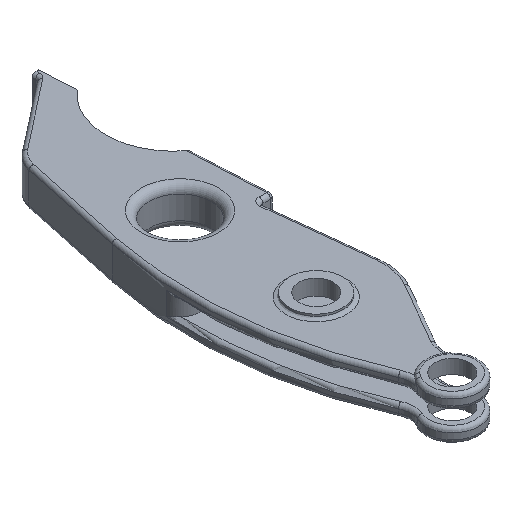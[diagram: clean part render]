
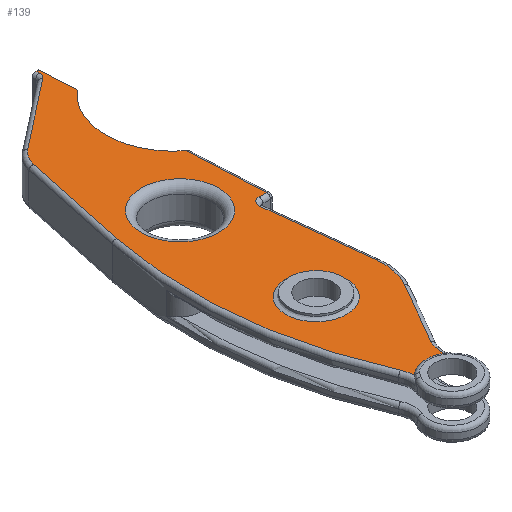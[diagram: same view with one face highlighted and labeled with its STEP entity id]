
A CAD part, isometric view. The second image highlights one B-rep face of the part: STEP entity #139.
In plain terms, the highlighted planar face has unit normal (0, 0, 1).
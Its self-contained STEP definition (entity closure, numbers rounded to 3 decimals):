
#80=PLANE('',#1693);
#100=FACE_BOUND('',#376,.T.);
#101=FACE_BOUND('',#377,.T.);
#102=FACE_BOUND('',#378,.T.);
#139=ADVANCED_FACE('',(#100,#101,#102),#80,.T.);
#376=EDGE_LOOP('',(#725,#726,#727,#728,#729,#730,#731,#732,#733,#734,#735,
#736,#737,#738,#739,#740,#741,#742));
#377=EDGE_LOOP('',(#743));
#378=EDGE_LOOP('',(#744));
#530=CIRCLE('',#1682,3.45);
#531=CIRCLE('',#1683,3.5);
#532=CIRCLE('',#1684,7.5);
#533=CIRCLE('',#1685,1.);
#534=CIRCLE('',#1686,8.835);
#535=CIRCLE('',#1687,1.);
#536=CIRCLE('',#1688,3.5);
#537=CIRCLE('',#1689,53.502);
#538=CIRCLE('',#1690,3.5);
#539=CIRCLE('',#1691,5.);
#540=CIRCLE('',#1692,3.95);
#725=ORIENTED_EDGE('',*,*,#1310,.T.);
#726=ORIENTED_EDGE('',*,*,#1311,.T.);
#727=ORIENTED_EDGE('',*,*,#1312,.T.);
#728=ORIENTED_EDGE('',*,*,#1313,.T.);
#729=ORIENTED_EDGE('',*,*,#1314,.T.);
#730=ORIENTED_EDGE('',*,*,#1315,.T.);
#731=ORIENTED_EDGE('',*,*,#1316,.T.);
#732=ORIENTED_EDGE('',*,*,#1317,.T.);
#733=ORIENTED_EDGE('',*,*,#1318,.T.);
#734=ORIENTED_EDGE('',*,*,#1319,.T.);
#735=ORIENTED_EDGE('',*,*,#1320,.T.);
#736=ORIENTED_EDGE('',*,*,#1321,.T.);
#737=ORIENTED_EDGE('',*,*,#1322,.T.);
#738=ORIENTED_EDGE('',*,*,#1323,.T.);
#739=ORIENTED_EDGE('',*,*,#1324,.T.);
#740=ORIENTED_EDGE('',*,*,#1325,.T.);
#741=ORIENTED_EDGE('',*,*,#1326,.T.);
#742=ORIENTED_EDGE('',*,*,#1327,.T.);
#743=ORIENTED_EDGE('',*,*,#1328,.T.);
#744=ORIENTED_EDGE('',*,*,#1329,.F.);
#1151=VERTEX_POINT('',#2638);
#1152=VERTEX_POINT('',#2639);
#1153=VERTEX_POINT('',#2641);
#1154=VERTEX_POINT('',#2643);
#1155=VERTEX_POINT('',#2645);
#1156=VERTEX_POINT('',#2647);
#1157=VERTEX_POINT('',#2649);
#1158=VERTEX_POINT('',#2651);
#1159=VERTEX_POINT('',#2653);
#1160=VERTEX_POINT('',#2655);
#1161=VERTEX_POINT('',#2657);
#1162=VERTEX_POINT('',#2659);
#1163=VERTEX_POINT('',#2661);
#1164=VERTEX_POINT('',#2663);
#1165=VERTEX_POINT('',#2665);
#1166=VERTEX_POINT('',#2667);
#1167=VERTEX_POINT('',#2669);
#1168=VERTEX_POINT('',#2671);
#1169=VERTEX_POINT('',#2674);
#1170=VERTEX_POINT('',#2676);
#1310=EDGE_CURVE('',#1151,#1152,#530,.T.);
#1311=EDGE_CURVE('',#1152,#1153,#531,.T.);
#1312=EDGE_CURVE('',#1153,#1154,#1492,.T.);
#1313=EDGE_CURVE('',#1154,#1155,#532,.T.);
#1314=EDGE_CURVE('',#1155,#1156,#1493,.T.);
#1315=EDGE_CURVE('',#1156,#1157,#533,.T.);
#1316=EDGE_CURVE('',#1157,#1158,#1494,.T.);
#1317=EDGE_CURVE('',#1158,#1159,#1495,.T.);
#1318=EDGE_CURVE('',#1159,#1160,#534,.T.);
#1319=EDGE_CURVE('',#1160,#1161,#1496,.T.);
#1320=EDGE_CURVE('',#1161,#1162,#1497,.T.);
#1321=EDGE_CURVE('',#1162,#1163,#1498,.T.);
#1322=EDGE_CURVE('',#1163,#1164,#535,.T.);
#1323=EDGE_CURVE('',#1164,#1165,#1499,.T.);
#1324=EDGE_CURVE('',#1165,#1166,#536,.T.);
#1325=EDGE_CURVE('',#1166,#1167,#1500,.T.);
#1326=EDGE_CURVE('',#1167,#1168,#537,.T.);
#1327=EDGE_CURVE('',#1168,#1151,#538,.T.);
#1328=EDGE_CURVE('',#1169,#1169,#539,.T.);
#1329=EDGE_CURVE('',#1170,#1170,#540,.T.);
#1492=LINE('',#2642,#1569);
#1493=LINE('',#2646,#1570);
#1494=LINE('',#2650,#1571);
#1495=LINE('',#2652,#1572);
#1496=LINE('',#2656,#1573);
#1497=LINE('',#2658,#1574);
#1498=LINE('',#2660,#1575);
#1499=LINE('',#2664,#1576);
#1500=LINE('',#2668,#1577);
#1569=VECTOR('',#2010,1.);
#1570=VECTOR('',#2013,1.);
#1571=VECTOR('',#2016,1.);
#1572=VECTOR('',#2017,1.);
#1573=VECTOR('',#2020,1.);
#1574=VECTOR('',#2021,1.);
#1575=VECTOR('',#2022,1.);
#1576=VECTOR('',#2025,1.);
#1577=VECTOR('',#2028,1.);
#1682=AXIS2_PLACEMENT_3D('',#2637,#2006,#2007);
#1683=AXIS2_PLACEMENT_3D('',#2640,#2008,#2009);
#1684=AXIS2_PLACEMENT_3D('',#2644,#2011,#2012);
#1685=AXIS2_PLACEMENT_3D('',#2648,#2014,#2015);
#1686=AXIS2_PLACEMENT_3D('',#2654,#2018,#2019);
#1687=AXIS2_PLACEMENT_3D('',#2662,#2023,#2024);
#1688=AXIS2_PLACEMENT_3D('',#2666,#2026,#2027);
#1689=AXIS2_PLACEMENT_3D('',#2670,#2029,#2030);
#1690=AXIS2_PLACEMENT_3D('',#2672,#2031,#2032);
#1691=AXIS2_PLACEMENT_3D('',#2673,#2033,#2034);
#1692=AXIS2_PLACEMENT_3D('',#2675,#2035,#2036);
#1693=AXIS2_PLACEMENT_3D('',#2677,#2037,#2038);
#2006=DIRECTION('',(0.,0.,-1.));
#2007=DIRECTION('',(-0.923,0.384,0.));
#2008=DIRECTION('',(0.,0.,-1.));
#2009=DIRECTION('',(1.,0.,0.));
#2010=DIRECTION('',(0.5,0.866,0.));
#2011=DIRECTION('',(0.,0.,1.));
#2012=DIRECTION('',(1.,0.,0.));
#2013=DIRECTION('',(-0.112,0.994,0.));
#2014=DIRECTION('',(0.,0.,-1.));
#2015=DIRECTION('',(1.,0.,0.));
#2016=DIRECTION('',(1.,0.,0.));
#2017=DIRECTION('',(-0.052,0.999,0.));
#2018=DIRECTION('',(0.,0.,-1.));
#2019=DIRECTION('',(-0.635,0.773,0.));
#2020=DIRECTION('',(-0.052,0.999,0.));
#2021=DIRECTION('',(-1.,0.,0.));
#2022=DIRECTION('',(0.052,-0.999,0.));
#2023=DIRECTION('',(0.,0.,-1.));
#2024=DIRECTION('',(1.,0.,0.));
#2025=DIRECTION('',(-0.788,-0.616,0.));
#2026=DIRECTION('',(0.,0.,1.));
#2027=DIRECTION('',(1.,0.,0.));
#2028=DIRECTION('',(-0.208,-0.978,0.));
#2029=DIRECTION('',(0.,0.,1.));
#2030=DIRECTION('',(1.,0.,0.));
#2031=DIRECTION('',(0.,0.,-1.));
#2032=DIRECTION('',(1.,0.,0.));
#2033=DIRECTION('',(0.,0.,-1.));
#2034=DIRECTION('',(1.,0.,0.));
#2035=DIRECTION('',(0.,0.,1.));
#2036=DIRECTION('',(1.,0.,0.));
#2037=DIRECTION('',(0.,0.,1.));
#2038=DIRECTION('',(-1.,0.,0.));
#2637=CARTESIAN_POINT('',(0.,0.,2.5));
#2638=CARTESIAN_POINT('',(-2.455,2.424,2.5));
#2639=CARTESIAN_POINT('',(2.013,2.802,2.5));
#2640=CARTESIAN_POINT('',(5.453,3.445,2.5));
#2641=CARTESIAN_POINT('',(2.422,5.195,2.5));
#2642=CARTESIAN_POINT('',(13.937,25.14,2.5));
#2643=CARTESIAN_POINT('',(7.073,13.25,2.5));
#2644=CARTESIAN_POINT('',(0.577,17.,2.5));
#2645=CARTESIAN_POINT('',(8.03,17.842,2.5));
#2646=CARTESIAN_POINT('',(6.256,33.548,2.5));
#2647=CARTESIAN_POINT('',(6.502,31.373,2.5));
#2648=CARTESIAN_POINT('',(7.495,31.485,2.5));
#2649=CARTESIAN_POINT('',(7.495,32.485,2.5));
#2650=CARTESIAN_POINT('',(0.5,32.485,2.5));
#2651=CARTESIAN_POINT('',(8.473,32.485,2.5));
#2652=CARTESIAN_POINT('',(8.43,33.313,2.5));
#2653=CARTESIAN_POINT('',(7.956,42.356,2.5));
#2654=CARTESIAN_POINT('',(13.341,49.36,2.5));
#2655=CARTESIAN_POINT('',(7.732,56.185,2.5));
#2656=CARTESIAN_POINT('',(8.929,33.34,2.5));
#2657=CARTESIAN_POINT('',(7.48,60.985,2.5));
#2658=CARTESIAN_POINT('',(0.5,60.985,2.5));
#2659=CARTESIAN_POINT('',(7.132,60.985,2.5));
#2660=CARTESIAN_POINT('',(8.581,33.321,2.5));
#2661=CARTESIAN_POINT('',(7.153,60.572,2.5));
#2662=CARTESIAN_POINT('',(6.155,60.519,2.5));
#2663=CARTESIAN_POINT('',(6.77,59.731,2.5));
#2664=CARTESIAN_POINT('',(-10.141,46.518,2.5));
#2665=CARTESIAN_POINT('',(-2.155,52.758,2.5));
#2666=CARTESIAN_POINT('',(0.,50.,2.5));
#2667=CARTESIAN_POINT('',(-3.424,50.728,2.5));
#2668=CARTESIAN_POINT('',(-6.88,34.466,2.5));
#2669=CARTESIAN_POINT('',(-6.331,37.05,2.5));
#2670=CARTESIAN_POINT('',(46.002,25.926,2.5));
#2671=CARTESIAN_POINT('',(-2.764,3.919,2.5));
#2672=CARTESIAN_POINT('',(-5.954,2.479,2.5));
#2673=CARTESIAN_POINT('',(0.884,36.09,2.5));
#2674=CARTESIAN_POINT('',(5.884,36.09,2.5));
#2675=CARTESIAN_POINT('',(0.,17.6,2.5));
#2676=CARTESIAN_POINT('',(3.95,17.6,2.5));
#2677=CARTESIAN_POINT('',(0.5,32.898,2.5));
